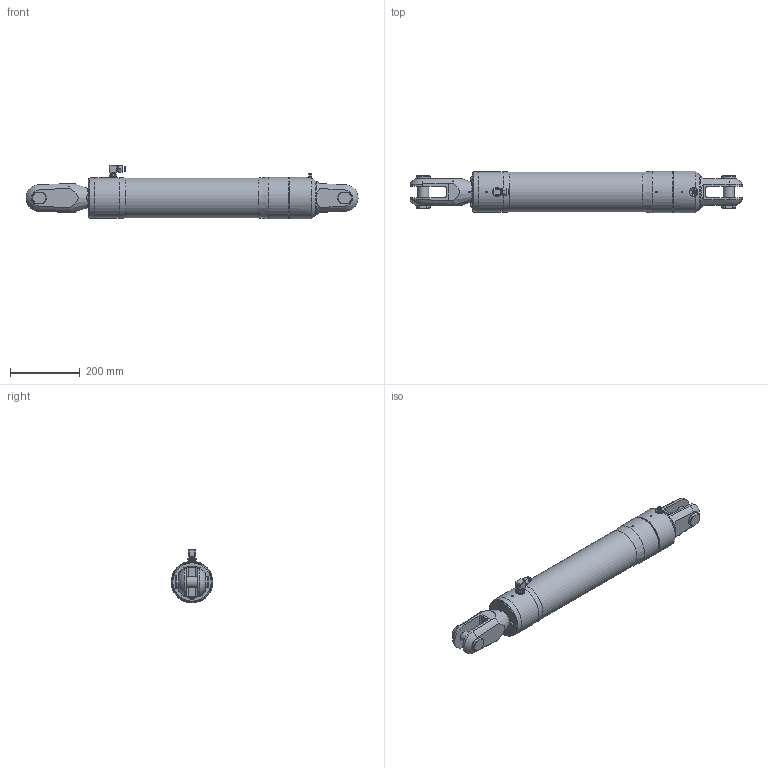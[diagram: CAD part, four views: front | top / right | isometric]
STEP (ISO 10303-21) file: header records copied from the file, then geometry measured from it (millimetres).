
FILE_DESCRIPTION(/* description */ (''),/* implementation_level */ '2;1');
FILE_NAME(/* name */ 'Q:\AA BRAND HYDRAULICS\HYDRAULICS FAMILY DIRECTORY\HYDRAULICS\CYLINDERS\RAMS\STAINLESS - STANDARD SINGLE ACTING (-0006 To -0260)\RSS-0060-S0375-NP-71\RSS-0060-S0375-NP-71 (Closed).stp',/* time_stamp */ '2018-02-07T16:45:54+00:00',/* author */ ('Lorena'),/* organization */ (''),/* preprocessor_version */ 'ST-DEVELOPER v17',/* originating_system */ 'Autodesk Inventor 2018',/* authorisation */ '');
FILE_SCHEMA (('AUTOMOTIVE_DESIGN { 1 0 10303 214 3 1 1 }'));
Length unit declared in the file: millimetre
Products named in the file (1): RSS-0060-S0375-NP-71 (Closed)
Bounding box: 952.92 x 119.4 x 153.95 mm (x, y, z)
Volume: 8013266.2 mm3; surface area: 367388.9 mm2
Topology: 2 solids, 2 shells, 1764 faces, 4762 edges, 3149 vertices
Faces by surface type: plane 1006, bspline 574, cone 107, cylinder 69, sphere 4, torus 4
Full cylindrical faces by diameter (mm): 4 x1, 5 x1, 7 x1, 9 x1, 10 x2, 14 x1, 14.35 x1, 14.662 x1, 15 x2, 15.662 x1, 16.662 x2, 18 x2, 20 x2, 21.4 x3, 25 x1, 31.75 x2, 34 x1, 39.688 x2, 112.8 x1, 114.4 x1, 117.4 x1, 118.4 x1, 119.4 x2
Entity records: 63299 total; most frequent: CARTESIAN_POINT 21252, ORIENTED_EDGE 9514, DIRECTION 6208, EDGE_CURVE 4757, VERTEX_POINT 3151, LINE 2956, VECTOR 2956, EDGE_LOOP 1926
